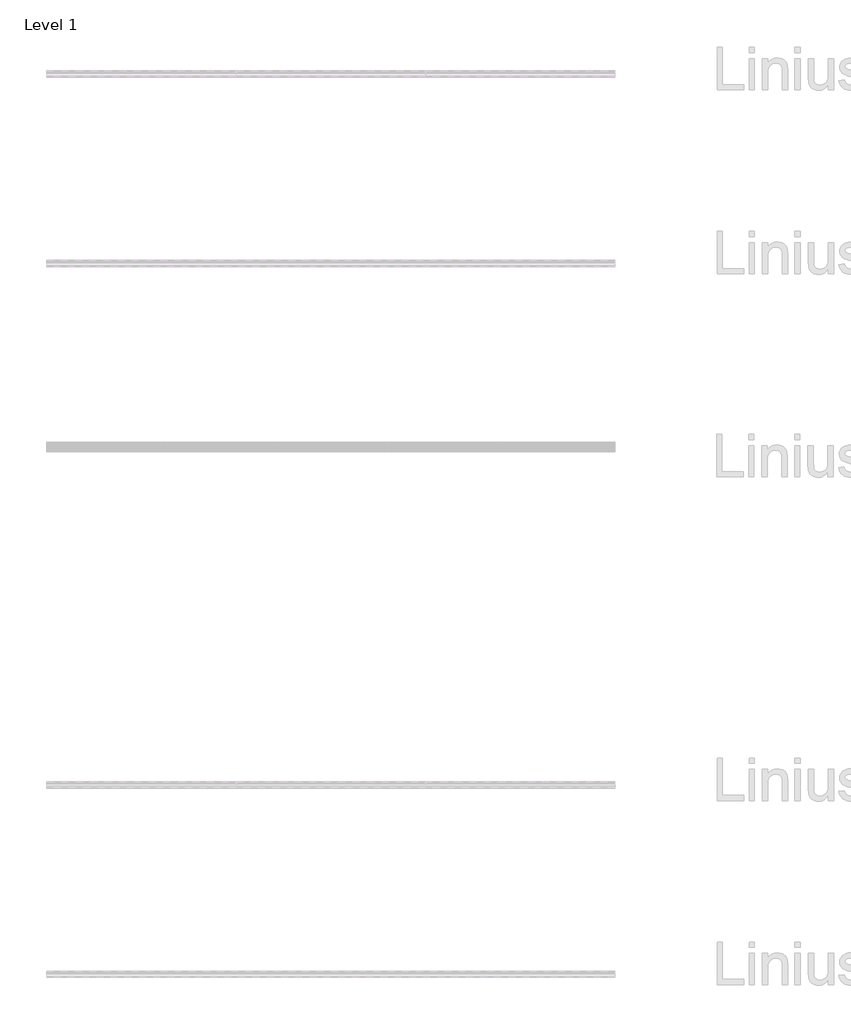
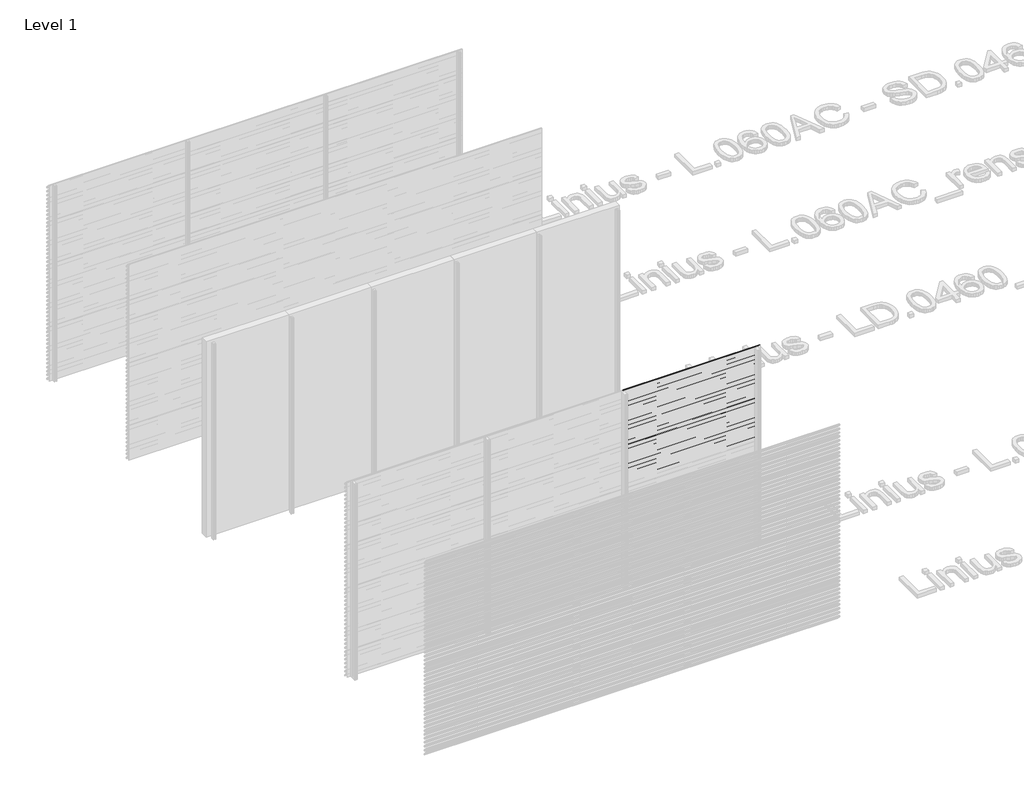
# One storey, part 117 of 153: 33 proxies.
"""IFC4 building model written with IfcOpenShell, lengths in millimetres."""

from ifc_helpers import new_model, si_unit, point, frame, frame_2d, origin, place, context, project, spatial, polyline, circle_curve, trimmed, segment, composite_curve, outline, extrude, element, save

model = new_model("IFC4")

# Units and contexts
model_context = context("Model", 3, world=origin())
ifc_project = project(units=[si_unit("LENGTHUNIT", "METRE", prefix="MILLI")], contexts=[model_context])

# Site, building, storey
site = spatial("IfcSite", under=ifc_project)
building = spatial("IfcBuilding", under=site)
storey = spatial("IfcBuildingStorey", under=building, Name="Level 1", Elevation=0.0)

# Proxies
placement = place(None, origin())
element("IfcBuildingElementProxy", 1, Name="Wall Sweeps", at=placement, inside=storey, context=model_context, shape_type="SweptSolid", body=[
    extrude(outline(composite_curve([segment(polyline([(58985.0540136, 540.0), (58999.874191, 538.7034025), (59049.0540136, 485.0102749), (59049.0540136, 473.6108187)]), True, "CONTINUOUS"), segment(trimmed(circle_curve(frame_2d((59045.7883652, 473.897153)), 3.2781774), [point((59049.0540136, 473.6108187))], [point((59046.4639442, 470.6893438))], False, "CARTESIAN"), True, "CONTINUOUS"), segment(polyline([(59046.4639442, 470.6893438), (59034.1895723, 471.6282758), (58985.0540136, 525.2730773), (58985.0540136, 540.0)]), True, "CONTINUOUS")], self_intersect=False), holes=[composite_curve([segment(polyline([(58999.1621773, 537.2599659), (58986.5540136, 538.3630372), (58986.5540136, 525.856213), (59034.8952036, 473.0786805), (59046.3312542, 472.2038762)]), True, "CONTINUOUS"), segment(trimmed(circle_curve(frame_2d((59045.7883652, 473.897153)), 1.7781774), [point((59046.3312542, 472.2038762))], [point((59047.5540136, 473.6864389))], True, "CARTESIAN"), True, "CONTINUOUS"), segment(polyline([(59047.5540136, 473.6864389), (59047.5540136, 484.4271392), (58999.1621773, 537.2599659)]), True, "CONTINUOUS")], self_intersect=False)]), frame((46966.6208098, 0.0, 0.0), z_axis=(1.0, 0.0, 0.0), x_axis=(0.0, 1.0, 0.0)), (0.0, 0.0, 1.0), 1999.9999998),
])
element("IfcBuildingElementProxy", 2, Name="Wall Sweeps", at=placement, inside=storey, context=model_context, shape_type="SweptSolid", body=[
    extrude(outline(composite_curve([segment(polyline([(58985.0540136, 480.0), (58999.874191, 478.7034025), (59049.0540136, 425.0102749), (59049.0540136, 413.6108187)]), True, "CONTINUOUS"), segment(trimmed(circle_curve(frame_2d((59045.7883652, 413.897153)), 3.2781774), [point((59049.0540136, 413.6108187))], [point((59046.4639442, 410.6893438))], False, "CARTESIAN"), True, "CONTINUOUS"), segment(polyline([(59046.4639442, 410.6893438), (59034.1895723, 411.6282758), (58985.0540136, 465.2730773), (58985.0540136, 480.0)]), True, "CONTINUOUS")], self_intersect=False), holes=[composite_curve([segment(polyline([(58999.1621773, 477.2599659), (58986.5540136, 478.3630372), (58986.5540136, 465.856213), (59034.8952036, 413.0786805), (59046.3312542, 412.2038762)]), True, "CONTINUOUS"), segment(trimmed(circle_curve(frame_2d((59045.7883652, 413.897153)), 1.7781774), [point((59046.3312542, 412.2038762))], [point((59047.5540136, 413.6864389))], True, "CARTESIAN"), True, "CONTINUOUS"), segment(polyline([(59047.5540136, 413.6864389), (59047.5540136, 424.4271392), (58999.1621773, 477.2599659)]), True, "CONTINUOUS")], self_intersect=False)]), frame((46966.6208098, 0.0, 0.0), z_axis=(1.0, 0.0, 0.0), x_axis=(0.0, 1.0, 0.0)), (0.0, 0.0, 1.0), 1999.9999998),
])
element("IfcBuildingElementProxy", 3, Name="Wall Sweeps", at=placement, inside=storey, context=model_context, shape_type="SweptSolid", body=[
    extrude(outline(composite_curve([segment(polyline([(58985.0540136, 420.0), (58999.874191, 418.7034025), (59049.0540136, 365.0102749), (59049.0540136, 353.6108187)]), True, "CONTINUOUS"), segment(trimmed(circle_curve(frame_2d((59045.7883652, 353.897153)), 3.2781774), [point((59049.0540136, 353.6108187))], [point((59046.4639442, 350.6893438))], False, "CARTESIAN"), True, "CONTINUOUS"), segment(polyline([(59046.4639442, 350.6893438), (59034.1895723, 351.6282758), (58985.0540136, 405.2730773), (58985.0540136, 420.0)]), True, "CONTINUOUS")], self_intersect=False), holes=[composite_curve([segment(polyline([(58999.1621773, 417.2599659), (58986.5540136, 418.3630372), (58986.5540136, 405.856213), (59034.8952036, 353.0786805), (59046.3312542, 352.2038762)]), True, "CONTINUOUS"), segment(trimmed(circle_curve(frame_2d((59045.7883652, 353.897153)), 1.7781774), [point((59046.3312542, 352.2038762))], [point((59047.5540136, 353.6864389))], True, "CARTESIAN"), True, "CONTINUOUS"), segment(polyline([(59047.5540136, 353.6864389), (59047.5540136, 364.4271392), (58999.1621773, 417.2599659)]), True, "CONTINUOUS")], self_intersect=False)]), frame((46966.6208098, 0.0, 0.0), z_axis=(1.0, 0.0, 0.0), x_axis=(0.0, 1.0, 0.0)), (0.0, 0.0, 1.0), 1999.9999998),
])
element("IfcBuildingElementProxy", 4, Name="Wall Sweeps", at=placement, inside=storey, context=model_context, shape_type="SweptSolid", body=[
    extrude(outline(composite_curve([segment(polyline([(58985.0540136, 360.0), (58999.874191, 358.7034025), (59049.0540136, 305.0102749), (59049.0540136, 293.6108187)]), True, "CONTINUOUS"), segment(trimmed(circle_curve(frame_2d((59045.7883652, 293.897153)), 3.2781774), [point((59049.0540136, 293.6108187))], [point((59046.4639442, 290.6893438))], False, "CARTESIAN"), True, "CONTINUOUS"), segment(polyline([(59046.4639442, 290.6893438), (59034.1895723, 291.6282758), (58985.0540136, 345.2730773), (58985.0540136, 360.0)]), True, "CONTINUOUS")], self_intersect=False), holes=[composite_curve([segment(polyline([(58999.1621773, 357.2599659), (58986.5540136, 358.3630372), (58986.5540136, 345.856213), (59034.8952036, 293.0786805), (59046.3312542, 292.2038762)]), True, "CONTINUOUS"), segment(trimmed(circle_curve(frame_2d((59045.7883652, 293.897153)), 1.7781774), [point((59046.3312542, 292.2038762))], [point((59047.5540136, 293.6864389))], True, "CARTESIAN"), True, "CONTINUOUS"), segment(polyline([(59047.5540136, 293.6864389), (59047.5540136, 304.4271392), (58999.1621773, 357.2599659)]), True, "CONTINUOUS")], self_intersect=False)]), frame((46966.6208098, 0.0, 0.0), z_axis=(1.0, 0.0, 0.0), x_axis=(0.0, 1.0, 0.0)), (0.0, 0.0, 1.0), 1999.9999998),
])
element("IfcBuildingElementProxy", 5, Name="Wall Sweeps", at=placement, inside=storey, context=model_context, shape_type="SweptSolid", body=[
    extrude(outline(composite_curve([segment(polyline([(58985.0540136, 300.0), (58999.874191, 298.7034025), (59049.0540136, 245.0102749), (59049.0540136, 233.6108187)]), True, "CONTINUOUS"), segment(trimmed(circle_curve(frame_2d((59045.7883652, 233.897153)), 3.2781774), [point((59049.0540136, 233.6108187))], [point((59046.4639442, 230.6893438))], False, "CARTESIAN"), True, "CONTINUOUS"), segment(polyline([(59046.4639442, 230.6893438), (59034.1895723, 231.6282758), (58985.0540136, 285.2730773), (58985.0540136, 300.0)]), True, "CONTINUOUS")], self_intersect=False), holes=[composite_curve([segment(polyline([(58999.1621773, 297.2599659), (58986.5540136, 298.3630372), (58986.5540136, 285.856213), (59034.8952036, 233.0786805), (59046.3312542, 232.2038762)]), True, "CONTINUOUS"), segment(trimmed(circle_curve(frame_2d((59045.7883652, 233.897153)), 1.7781774), [point((59046.3312542, 232.2038762))], [point((59047.5540136, 233.6864389))], True, "CARTESIAN"), True, "CONTINUOUS"), segment(polyline([(59047.5540136, 233.6864389), (59047.5540136, 244.4271392), (58999.1621773, 297.2599659)]), True, "CONTINUOUS")], self_intersect=False)]), frame((46966.6208098, 0.0, 0.0), z_axis=(1.0, 0.0, 0.0), x_axis=(0.0, 1.0, 0.0)), (0.0, 0.0, 1.0), 1999.9999998),
])
element("IfcBuildingElementProxy", 6, Name="Wall Sweeps", at=placement, inside=storey, context=model_context, shape_type="SweptSolid", body=[
    extrude(outline(composite_curve([segment(polyline([(58985.0540136, 240.0), (58999.874191, 238.7034025), (59049.0540136, 185.0102749), (59049.0540136, 173.6108187)]), True, "CONTINUOUS"), segment(trimmed(circle_curve(frame_2d((59045.7883652, 173.897153)), 3.2781774), [point((59049.0540136, 173.6108187))], [point((59046.4639442, 170.6893438))], False, "CARTESIAN"), True, "CONTINUOUS"), segment(polyline([(59046.4639442, 170.6893438), (59034.1895723, 171.6282758), (58985.0540136, 225.2730773), (58985.0540136, 240.0)]), True, "CONTINUOUS")], self_intersect=False), holes=[composite_curve([segment(polyline([(58999.1621773, 237.2599659), (58986.5540136, 238.3630372), (58986.5540136, 225.856213), (59034.8952036, 173.0786805), (59046.3312542, 172.2038762)]), True, "CONTINUOUS"), segment(trimmed(circle_curve(frame_2d((59045.7883652, 173.897153)), 1.7781774), [point((59046.3312542, 172.2038762))], [point((59047.5540136, 173.6864389))], True, "CARTESIAN"), True, "CONTINUOUS"), segment(polyline([(59047.5540136, 173.6864389), (59047.5540136, 184.4271392), (58999.1621773, 237.2599659)]), True, "CONTINUOUS")], self_intersect=False)]), frame((46966.6208098, 0.0, 0.0), z_axis=(1.0, 0.0, 0.0), x_axis=(0.0, 1.0, 0.0)), (0.0, 0.0, 1.0), 1999.9999998),
])
element("IfcBuildingElementProxy", 7, Name="Wall Sweeps", at=placement, inside=storey, context=model_context, shape_type="SweptSolid", body=[
    extrude(outline(composite_curve([segment(polyline([(58985.0540136, 180.0), (58999.874191, 178.7034025), (59049.0540136, 125.0102749), (59049.0540136, 113.6108187)]), True, "CONTINUOUS"), segment(trimmed(circle_curve(frame_2d((59045.7883652, 113.897153)), 3.2781774), [point((59049.0540136, 113.6108187))], [point((59046.4639442, 110.6893438))], False, "CARTESIAN"), True, "CONTINUOUS"), segment(polyline([(59046.4639442, 110.6893438), (59034.1895723, 111.6282758), (58985.0540136, 165.2730773), (58985.0540136, 180.0)]), True, "CONTINUOUS")], self_intersect=False), holes=[composite_curve([segment(polyline([(58999.1621773, 177.2599659), (58986.5540136, 178.3630372), (58986.5540136, 165.856213), (59034.8952036, 113.0786805), (59046.3312542, 112.2038762)]), True, "CONTINUOUS"), segment(trimmed(circle_curve(frame_2d((59045.7883652, 113.897153)), 1.7781774), [point((59046.3312542, 112.2038762))], [point((59047.5540136, 113.6864389))], True, "CARTESIAN"), True, "CONTINUOUS"), segment(polyline([(59047.5540136, 113.6864389), (59047.5540136, 124.4271392), (58999.1621773, 177.2599659)]), True, "CONTINUOUS")], self_intersect=False)]), frame((46966.6208098, 0.0, 0.0), z_axis=(1.0, 0.0, 0.0), x_axis=(0.0, 1.0, 0.0)), (0.0, 0.0, 1.0), 1999.9999998),
])
element("IfcBuildingElementProxy", 8, Name="Wall Sweeps", at=placement, inside=storey, context=model_context, shape_type="SweptSolid", body=[
    extrude(outline(composite_curve([segment(polyline([(58985.0540136, 120.0), (58999.874191, 118.7034025), (59049.0540136, 65.0102749), (59049.0540136, 53.6108187)]), True, "CONTINUOUS"), segment(trimmed(circle_curve(frame_2d((59045.7883652, 53.897153)), 3.2781774), [point((59049.0540136, 53.6108187))], [point((59046.4639442, 50.6893438))], False, "CARTESIAN"), True, "CONTINUOUS"), segment(polyline([(59046.4639442, 50.6893438), (59034.1895723, 51.6282758), (58985.0540136, 105.2730773), (58985.0540136, 120.0)]), True, "CONTINUOUS")], self_intersect=False), holes=[composite_curve([segment(polyline([(58999.1621773, 117.2599659), (58986.5540136, 118.3630372), (58986.5540136, 105.856213), (59034.8952036, 53.0786805), (59046.3312542, 52.2038762)]), True, "CONTINUOUS"), segment(trimmed(circle_curve(frame_2d((59045.7883652, 53.897153)), 1.7781774), [point((59046.3312542, 52.2038762))], [point((59047.5540136, 53.6864389))], True, "CARTESIAN"), True, "CONTINUOUS"), segment(polyline([(59047.5540136, 53.6864389), (59047.5540136, 64.4271392), (58999.1621773, 117.2599659)]), True, "CONTINUOUS")], self_intersect=False)]), frame((46966.6208098, 0.0, 0.0), z_axis=(1.0, 0.0, 0.0), x_axis=(0.0, 1.0, 0.0)), (0.0, 0.0, 1.0), 1999.9999998),
])
element("IfcBuildingElementProxy", 9, Name="Wall Sweeps", at=placement, inside=storey, context=model_context, shape_type="SweptSolid", body=[
    extrude(outline(composite_curve([segment(polyline([(58985.0540136, 60.0), (58999.874191, 58.7034025), (59049.0540136, 5.0102749), (59049.0540136, -6.3891813)]), True, "CONTINUOUS"), segment(trimmed(circle_curve(frame_2d((59045.7883652, -6.102847)), 3.2781774), [point((59049.0540136, -6.3891813))], [point((59046.4639442, -9.3106562))], False, "CARTESIAN"), True, "CONTINUOUS"), segment(polyline([(59046.4639442, -9.3106562), (59034.1895723, -8.3717242), (58985.0540136, 45.2730773), (58985.0540136, 60.0)]), True, "CONTINUOUS")], self_intersect=False), holes=[composite_curve([segment(polyline([(58999.1621773, 57.2599659), (58986.5540136, 58.3630372), (58986.5540136, 45.856213), (59034.8952036, -6.9213195), (59046.3312542, -7.7961238)]), True, "CONTINUOUS"), segment(trimmed(circle_curve(frame_2d((59045.7883652, -6.102847)), 1.7781774), [point((59046.3312542, -7.7961238))], [point((59047.5540136, -6.3135611))], True, "CARTESIAN"), True, "CONTINUOUS"), segment(polyline([(59047.5540136, -6.3135611), (59047.5540136, 4.4271392), (58999.1621773, 57.2599659)]), True, "CONTINUOUS")], self_intersect=False)]), frame((46966.6208098, 0.0, 0.0), z_axis=(1.0, 0.0, 0.0), x_axis=(0.0, 1.0, 0.0)), (0.0, 0.0, 1.0), 1999.9999998),
])
element("IfcBuildingElementProxy", 10, Name="Wall Sweeps", at=placement, inside=storey, context=model_context, shape_type="SweptSolid", body=[
    extrude(outline(composite_curve([segment(polyline([(51485.0540136, 3000.0), (51499.874191, 2998.7034025), (51549.0540136, 2945.0102749), (51549.0540136, 2933.6108187)]), True, "CONTINUOUS"), segment(trimmed(circle_curve(frame_2d((51545.7883652, 2933.897153)), 3.2781774), [point((51549.0540136, 2933.6108187))], [point((51546.4639442, 2930.6893438))], False, "CARTESIAN"), True, "CONTINUOUS"), segment(polyline([(51546.4639442, 2930.6893438), (51534.1895723, 2931.6282758), (51485.0540136, 2985.2730773), (51485.0540136, 3000.0)]), True, "CONTINUOUS")], self_intersect=False), holes=[composite_curve([segment(polyline([(51499.1621773, 2997.2599659), (51486.5540136, 2998.3630372), (51486.5540136, 2985.856213), (51534.8952036, 2933.0786805), (51546.3312542, 2932.2038762)]), True, "CONTINUOUS"), segment(trimmed(circle_curve(frame_2d((51545.7883652, 2933.897153)), 1.7781774), [point((51546.3312542, 2932.2038762))], [point((51547.5540136, 2933.6864389))], True, "CARTESIAN"), True, "CONTINUOUS"), segment(polyline([(51547.5540136, 2933.6864389), (51547.5540136, 2944.4271392), (51499.1621773, 2997.2599659)]), True, "CONTINUOUS")], self_intersect=False)]), frame((48966.6208096, 0.0, 0.0), z_axis=(1.0, 0.0, 0.0), x_axis=(0.0, 1.0, 0.0)), (0.0, 0.0, 1.0), 2000.0000001),
])
element("IfcBuildingElementProxy", 11, Name="Wall Sweeps", at=placement, inside=storey, context=model_context, shape_type="SweptSolid", body=[
    extrude(outline(composite_curve([segment(polyline([(51485.0540136, 2940.0), (51499.874191, 2938.7034025), (51549.0540136, 2885.0102749), (51549.0540136, 2873.6108187)]), True, "CONTINUOUS"), segment(trimmed(circle_curve(frame_2d((51545.7883652, 2873.897153)), 3.2781774), [point((51549.0540136, 2873.6108187))], [point((51546.4639442, 2870.6893438))], False, "CARTESIAN"), True, "CONTINUOUS"), segment(polyline([(51546.4639442, 2870.6893438), (51534.1895723, 2871.6282758), (51485.0540136, 2925.2730773), (51485.0540136, 2940.0)]), True, "CONTINUOUS")], self_intersect=False), holes=[composite_curve([segment(polyline([(51499.1621773, 2937.2599659), (51486.5540136, 2938.3630372), (51486.5540136, 2925.856213), (51534.8952036, 2873.0786805), (51546.3312542, 2872.2038762)]), True, "CONTINUOUS"), segment(trimmed(circle_curve(frame_2d((51545.7883652, 2873.897153)), 1.7781774), [point((51546.3312542, 2872.2038762))], [point((51547.5540136, 2873.6864389))], True, "CARTESIAN"), True, "CONTINUOUS"), segment(polyline([(51547.5540136, 2873.6864389), (51547.5540136, 2884.4271392), (51499.1621773, 2937.2599659)]), True, "CONTINUOUS")], self_intersect=False)]), frame((48966.6208096, 0.0, 0.0), z_axis=(1.0, 0.0, 0.0), x_axis=(0.0, 1.0, 0.0)), (0.0, 0.0, 1.0), 2000.0000001),
])
element("IfcBuildingElementProxy", 12, Name="Wall Sweeps", at=placement, inside=storey, context=model_context, shape_type="SweptSolid", body=[
    extrude(outline(composite_curve([segment(polyline([(51485.0540136, 2880.0), (51499.874191, 2878.7034025), (51549.0540136, 2825.0102749), (51549.0540136, 2813.6108187)]), True, "CONTINUOUS"), segment(trimmed(circle_curve(frame_2d((51545.7883652, 2813.897153)), 3.2781774), [point((51549.0540136, 2813.6108187))], [point((51546.4639442, 2810.6893438))], False, "CARTESIAN"), True, "CONTINUOUS"), segment(polyline([(51546.4639442, 2810.6893438), (51534.1895723, 2811.6282758), (51485.0540136, 2865.2730773), (51485.0540136, 2880.0)]), True, "CONTINUOUS")], self_intersect=False), holes=[composite_curve([segment(polyline([(51499.1621773, 2877.2599659), (51486.5540136, 2878.3630372), (51486.5540136, 2865.856213), (51534.8952036, 2813.0786805), (51546.3312542, 2812.2038762)]), True, "CONTINUOUS"), segment(trimmed(circle_curve(frame_2d((51545.7883652, 2813.897153)), 1.7781774), [point((51546.3312542, 2812.2038762))], [point((51547.5540136, 2813.6864389))], True, "CARTESIAN"), True, "CONTINUOUS"), segment(polyline([(51547.5540136, 2813.6864389), (51547.5540136, 2824.4271392), (51499.1621773, 2877.2599659)]), True, "CONTINUOUS")], self_intersect=False)]), frame((48966.6208096, 0.0, 0.0), z_axis=(1.0, 0.0, 0.0), x_axis=(0.0, 1.0, 0.0)), (0.0, 0.0, 1.0), 2000.0000001),
])
element("IfcBuildingElementProxy", 13, Name="Wall Sweeps", at=placement, inside=storey, context=model_context, shape_type="SweptSolid", body=[
    extrude(outline(composite_curve([segment(polyline([(51485.0540136, 2820.0), (51499.874191, 2818.7034025), (51549.0540136, 2765.0102749), (51549.0540136, 2753.6108187)]), True, "CONTINUOUS"), segment(trimmed(circle_curve(frame_2d((51545.7883652, 2753.897153)), 3.2781774), [point((51549.0540136, 2753.6108187))], [point((51546.4639442, 2750.6893438))], False, "CARTESIAN"), True, "CONTINUOUS"), segment(polyline([(51546.4639442, 2750.6893438), (51534.1895723, 2751.6282758), (51485.0540136, 2805.2730773), (51485.0540136, 2820.0)]), True, "CONTINUOUS")], self_intersect=False), holes=[composite_curve([segment(polyline([(51499.1621773, 2817.2599659), (51486.5540136, 2818.3630372), (51486.5540136, 2805.856213), (51534.8952036, 2753.0786805), (51546.3312542, 2752.2038762)]), True, "CONTINUOUS"), segment(trimmed(circle_curve(frame_2d((51545.7883652, 2753.897153)), 1.7781774), [point((51546.3312542, 2752.2038762))], [point((51547.5540136, 2753.6864389))], True, "CARTESIAN"), True, "CONTINUOUS"), segment(polyline([(51547.5540136, 2753.6864389), (51547.5540136, 2764.4271392), (51499.1621773, 2817.2599659)]), True, "CONTINUOUS")], self_intersect=False)]), frame((48966.6208096, 0.0, 0.0), z_axis=(1.0, 0.0, 0.0), x_axis=(0.0, 1.0, 0.0)), (0.0, 0.0, 1.0), 2000.0000001),
])
element("IfcBuildingElementProxy", 14, Name="Wall Sweeps", at=placement, inside=storey, context=model_context, shape_type="SweptSolid", body=[
    extrude(outline(composite_curve([segment(polyline([(51485.0540136, 2760.0), (51499.874191, 2758.7034025), (51549.0540136, 2705.0102749), (51549.0540136, 2693.6108187)]), True, "CONTINUOUS"), segment(trimmed(circle_curve(frame_2d((51545.7883652, 2693.897153)), 3.2781774), [point((51549.0540136, 2693.6108187))], [point((51546.4639442, 2690.6893438))], False, "CARTESIAN"), True, "CONTINUOUS"), segment(polyline([(51546.4639442, 2690.6893438), (51534.1895723, 2691.6282758), (51485.0540136, 2745.2730773), (51485.0540136, 2760.0)]), True, "CONTINUOUS")], self_intersect=False), holes=[composite_curve([segment(polyline([(51499.1621773, 2757.2599659), (51486.5540136, 2758.3630372), (51486.5540136, 2745.856213), (51534.8952036, 2693.0786805), (51546.3312542, 2692.2038762)]), True, "CONTINUOUS"), segment(trimmed(circle_curve(frame_2d((51545.7883652, 2693.897153)), 1.7781774), [point((51546.3312542, 2692.2038762))], [point((51547.5540136, 2693.6864389))], True, "CARTESIAN"), True, "CONTINUOUS"), segment(polyline([(51547.5540136, 2693.6864389), (51547.5540136, 2704.4271392), (51499.1621773, 2757.2599659)]), True, "CONTINUOUS")], self_intersect=False)]), frame((48966.6208096, 0.0, 0.0), z_axis=(1.0, 0.0, 0.0), x_axis=(0.0, 1.0, 0.0)), (0.0, 0.0, 1.0), 2000.0000001),
])
element("IfcBuildingElementProxy", 15, Name="Wall Sweeps", at=placement, inside=storey, context=model_context, shape_type="SweptSolid", body=[
    extrude(outline(composite_curve([segment(polyline([(51485.0540136, 2700.0), (51499.874191, 2698.7034025), (51549.0540136, 2645.0102749), (51549.0540136, 2633.6108187)]), True, "CONTINUOUS"), segment(trimmed(circle_curve(frame_2d((51545.7883652, 2633.897153)), 3.2781774), [point((51549.0540136, 2633.6108187))], [point((51546.4639442, 2630.6893438))], False, "CARTESIAN"), True, "CONTINUOUS"), segment(polyline([(51546.4639442, 2630.6893438), (51534.1895723, 2631.6282758), (51485.0540136, 2685.2730773), (51485.0540136, 2700.0)]), True, "CONTINUOUS")], self_intersect=False), holes=[composite_curve([segment(polyline([(51499.1621773, 2697.2599659), (51486.5540136, 2698.3630372), (51486.5540136, 2685.856213), (51534.8952036, 2633.0786805), (51546.3312542, 2632.2038762)]), True, "CONTINUOUS"), segment(trimmed(circle_curve(frame_2d((51545.7883652, 2633.897153)), 1.7781774), [point((51546.3312542, 2632.2038762))], [point((51547.5540136, 2633.6864389))], True, "CARTESIAN"), True, "CONTINUOUS"), segment(polyline([(51547.5540136, 2633.6864389), (51547.5540136, 2644.4271392), (51499.1621773, 2697.2599659)]), True, "CONTINUOUS")], self_intersect=False)]), frame((48966.6208096, 0.0, 0.0), z_axis=(1.0, 0.0, 0.0), x_axis=(0.0, 1.0, 0.0)), (0.0, 0.0, 1.0), 2000.0000001),
])
element("IfcBuildingElementProxy", 16, Name="Wall Sweeps", at=placement, inside=storey, context=model_context, shape_type="SweptSolid", body=[
    extrude(outline(composite_curve([segment(polyline([(51485.0540136, 2640.0), (51499.874191, 2638.7034025), (51549.0540136, 2585.0102749), (51549.0540136, 2573.6108187)]), True, "CONTINUOUS"), segment(trimmed(circle_curve(frame_2d((51545.7883652, 2573.897153)), 3.2781774), [point((51549.0540136, 2573.6108187))], [point((51546.4639442, 2570.6893438))], False, "CARTESIAN"), True, "CONTINUOUS"), segment(polyline([(51546.4639442, 2570.6893438), (51534.1895723, 2571.6282758), (51485.0540136, 2625.2730773), (51485.0540136, 2640.0)]), True, "CONTINUOUS")], self_intersect=False), holes=[composite_curve([segment(polyline([(51499.1621773, 2637.2599659), (51486.5540136, 2638.3630372), (51486.5540136, 2625.856213), (51534.8952036, 2573.0786805), (51546.3312542, 2572.2038762)]), True, "CONTINUOUS"), segment(trimmed(circle_curve(frame_2d((51545.7883652, 2573.897153)), 1.7781774), [point((51546.3312542, 2572.2038762))], [point((51547.5540136, 2573.6864389))], True, "CARTESIAN"), True, "CONTINUOUS"), segment(polyline([(51547.5540136, 2573.6864389), (51547.5540136, 2584.4271392), (51499.1621773, 2637.2599659)]), True, "CONTINUOUS")], self_intersect=False)]), frame((48966.6208096, 0.0, 0.0), z_axis=(1.0, 0.0, 0.0), x_axis=(0.0, 1.0, 0.0)), (0.0, 0.0, 1.0), 2000.0000001),
])
element("IfcBuildingElementProxy", 17, Name="Wall Sweeps", at=placement, inside=storey, context=model_context, shape_type="SweptSolid", body=[
    extrude(outline(composite_curve([segment(polyline([(51485.0540136, 2580.0), (51499.874191, 2578.7034025), (51549.0540136, 2525.0102749), (51549.0540136, 2513.6108187)]), True, "CONTINUOUS"), segment(trimmed(circle_curve(frame_2d((51545.7883652, 2513.897153)), 3.2781774), [point((51549.0540136, 2513.6108187))], [point((51546.4639442, 2510.6893438))], False, "CARTESIAN"), True, "CONTINUOUS"), segment(polyline([(51546.4639442, 2510.6893438), (51534.1895723, 2511.6282758), (51485.0540136, 2565.2730773), (51485.0540136, 2580.0)]), True, "CONTINUOUS")], self_intersect=False), holes=[composite_curve([segment(polyline([(51499.1621773, 2577.2599659), (51486.5540136, 2578.3630372), (51486.5540136, 2565.856213), (51534.8952036, 2513.0786805), (51546.3312542, 2512.2038762)]), True, "CONTINUOUS"), segment(trimmed(circle_curve(frame_2d((51545.7883652, 2513.897153)), 1.7781774), [point((51546.3312542, 2512.2038762))], [point((51547.5540136, 2513.6864389))], True, "CARTESIAN"), True, "CONTINUOUS"), segment(polyline([(51547.5540136, 2513.6864389), (51547.5540136, 2524.4271392), (51499.1621773, 2577.2599659)]), True, "CONTINUOUS")], self_intersect=False)]), frame((48966.6208096, 0.0, 0.0), z_axis=(1.0, 0.0, 0.0), x_axis=(0.0, 1.0, 0.0)), (0.0, 0.0, 1.0), 2000.0000001),
])
element("IfcBuildingElementProxy", 18, Name="Wall Sweeps", at=placement, inside=storey, context=model_context, shape_type="SweptSolid", body=[
    extrude(outline(composite_curve([segment(polyline([(51485.0540136, 2520.0), (51499.874191, 2518.7034025), (51549.0540136, 2465.0102749), (51549.0540136, 2453.6108187)]), True, "CONTINUOUS"), segment(trimmed(circle_curve(frame_2d((51545.7883652, 2453.897153)), 3.2781774), [point((51549.0540136, 2453.6108187))], [point((51546.4639442, 2450.6893438))], False, "CARTESIAN"), True, "CONTINUOUS"), segment(polyline([(51546.4639442, 2450.6893438), (51534.1895723, 2451.6282758), (51485.0540136, 2505.2730773), (51485.0540136, 2520.0)]), True, "CONTINUOUS")], self_intersect=False), holes=[composite_curve([segment(polyline([(51499.1621773, 2517.2599659), (51486.5540136, 2518.3630372), (51486.5540136, 2505.856213), (51534.8952036, 2453.0786805), (51546.3312542, 2452.2038762)]), True, "CONTINUOUS"), segment(trimmed(circle_curve(frame_2d((51545.7883652, 2453.897153)), 1.7781774), [point((51546.3312542, 2452.2038762))], [point((51547.5540136, 2453.6864389))], True, "CARTESIAN"), True, "CONTINUOUS"), segment(polyline([(51547.5540136, 2453.6864389), (51547.5540136, 2464.4271392), (51499.1621773, 2517.2599659)]), True, "CONTINUOUS")], self_intersect=False)]), frame((48966.6208096, 0.0, 0.0), z_axis=(1.0, 0.0, 0.0), x_axis=(0.0, 1.0, 0.0)), (0.0, 0.0, 1.0), 2000.0000001),
])
element("IfcBuildingElementProxy", 19, Name="Wall Sweeps", at=placement, inside=storey, context=model_context, shape_type="SweptSolid", body=[
    extrude(outline(composite_curve([segment(polyline([(51485.0540136, 2460.0), (51499.874191, 2458.7034025), (51549.0540136, 2405.0102749), (51549.0540136, 2393.6108187)]), True, "CONTINUOUS"), segment(trimmed(circle_curve(frame_2d((51545.7883652, 2393.897153)), 3.2781774), [point((51549.0540136, 2393.6108187))], [point((51546.4639442, 2390.6893438))], False, "CARTESIAN"), True, "CONTINUOUS"), segment(polyline([(51546.4639442, 2390.6893438), (51534.1895723, 2391.6282758), (51485.0540136, 2445.2730773), (51485.0540136, 2460.0)]), True, "CONTINUOUS")], self_intersect=False), holes=[composite_curve([segment(polyline([(51499.1621773, 2457.2599659), (51486.5540136, 2458.3630372), (51486.5540136, 2445.856213), (51534.8952036, 2393.0786805), (51546.3312542, 2392.2038762)]), True, "CONTINUOUS"), segment(trimmed(circle_curve(frame_2d((51545.7883652, 2393.897153)), 1.7781774), [point((51546.3312542, 2392.2038762))], [point((51547.5540136, 2393.6864389))], True, "CARTESIAN"), True, "CONTINUOUS"), segment(polyline([(51547.5540136, 2393.6864389), (51547.5540136, 2404.4271392), (51499.1621773, 2457.2599659)]), True, "CONTINUOUS")], self_intersect=False)]), frame((48966.6208096, 0.0, 0.0), z_axis=(1.0, 0.0, 0.0), x_axis=(0.0, 1.0, 0.0)), (0.0, 0.0, 1.0), 2000.0000001),
])
element("IfcBuildingElementProxy", 20, Name="Wall Sweeps", at=placement, inside=storey, context=model_context, shape_type="SweptSolid", body=[
    extrude(outline(composite_curve([segment(polyline([(51485.0540136, 2400.0), (51499.874191, 2398.7034025), (51549.0540136, 2345.0102749), (51549.0540136, 2333.6108187)]), True, "CONTINUOUS"), segment(trimmed(circle_curve(frame_2d((51545.7883652, 2333.897153)), 3.2781774), [point((51549.0540136, 2333.6108187))], [point((51546.4639442, 2330.6893438))], False, "CARTESIAN"), True, "CONTINUOUS"), segment(polyline([(51546.4639442, 2330.6893438), (51534.1895723, 2331.6282758), (51485.0540136, 2385.2730773), (51485.0540136, 2400.0)]), True, "CONTINUOUS")], self_intersect=False), holes=[composite_curve([segment(polyline([(51499.1621773, 2397.2599659), (51486.5540136, 2398.3630372), (51486.5540136, 2385.856213), (51534.8952036, 2333.0786805), (51546.3312542, 2332.2038762)]), True, "CONTINUOUS"), segment(trimmed(circle_curve(frame_2d((51545.7883652, 2333.897153)), 1.7781774), [point((51546.3312542, 2332.2038762))], [point((51547.5540136, 2333.6864389))], True, "CARTESIAN"), True, "CONTINUOUS"), segment(polyline([(51547.5540136, 2333.6864389), (51547.5540136, 2344.4271392), (51499.1621773, 2397.2599659)]), True, "CONTINUOUS")], self_intersect=False)]), frame((48966.6208096, 0.0, 0.0), z_axis=(1.0, 0.0, 0.0), x_axis=(0.0, 1.0, 0.0)), (0.0, 0.0, 1.0), 2000.0000001),
])
element("IfcBuildingElementProxy", 21, Name="Wall Sweeps", at=placement, inside=storey, context=model_context, shape_type="SweptSolid", body=[
    extrude(outline(composite_curve([segment(polyline([(51485.0540136, 2340.0), (51499.874191, 2338.7034025), (51549.0540136, 2285.0102749), (51549.0540136, 2273.6108187)]), True, "CONTINUOUS"), segment(trimmed(circle_curve(frame_2d((51545.7883652, 2273.897153)), 3.2781774), [point((51549.0540136, 2273.6108187))], [point((51546.4639442, 2270.6893438))], False, "CARTESIAN"), True, "CONTINUOUS"), segment(polyline([(51546.4639442, 2270.6893438), (51534.1895723, 2271.6282758), (51485.0540136, 2325.2730773), (51485.0540136, 2340.0)]), True, "CONTINUOUS")], self_intersect=False), holes=[composite_curve([segment(polyline([(51499.1621773, 2337.2599659), (51486.5540136, 2338.3630372), (51486.5540136, 2325.856213), (51534.8952036, 2273.0786805), (51546.3312542, 2272.2038762)]), True, "CONTINUOUS"), segment(trimmed(circle_curve(frame_2d((51545.7883652, 2273.897153)), 1.7781774), [point((51546.3312542, 2272.2038762))], [point((51547.5540136, 2273.6864389))], True, "CARTESIAN"), True, "CONTINUOUS"), segment(polyline([(51547.5540136, 2273.6864389), (51547.5540136, 2284.4271392), (51499.1621773, 2337.2599659)]), True, "CONTINUOUS")], self_intersect=False)]), frame((48966.6208096, 0.0, 0.0), z_axis=(1.0, 0.0, 0.0), x_axis=(0.0, 1.0, 0.0)), (0.0, 0.0, 1.0), 2000.0000001),
])
element("IfcBuildingElementProxy", 22, Name="Wall Sweeps", at=placement, inside=storey, context=model_context, shape_type="SweptSolid", body=[
    extrude(outline(composite_curve([segment(polyline([(51485.0540136, 2280.0), (51499.874191, 2278.7034025), (51549.0540136, 2225.0102749), (51549.0540136, 2213.6108187)]), True, "CONTINUOUS"), segment(trimmed(circle_curve(frame_2d((51545.7883652, 2213.897153)), 3.2781774), [point((51549.0540136, 2213.6108187))], [point((51546.4639442, 2210.6893438))], False, "CARTESIAN"), True, "CONTINUOUS"), segment(polyline([(51546.4639442, 2210.6893438), (51534.1895723, 2211.6282758), (51485.0540136, 2265.2730773), (51485.0540136, 2280.0)]), True, "CONTINUOUS")], self_intersect=False), holes=[composite_curve([segment(polyline([(51499.1621773, 2277.2599659), (51486.5540136, 2278.3630372), (51486.5540136, 2265.856213), (51534.8952036, 2213.0786805), (51546.3312542, 2212.2038762)]), True, "CONTINUOUS"), segment(trimmed(circle_curve(frame_2d((51545.7883652, 2213.897153)), 1.7781774), [point((51546.3312542, 2212.2038762))], [point((51547.5540136, 2213.6864389))], True, "CARTESIAN"), True, "CONTINUOUS"), segment(polyline([(51547.5540136, 2213.6864389), (51547.5540136, 2224.4271392), (51499.1621773, 2277.2599659)]), True, "CONTINUOUS")], self_intersect=False)]), frame((48966.6208096, 0.0, 0.0), z_axis=(1.0, 0.0, 0.0), x_axis=(0.0, 1.0, 0.0)), (0.0, 0.0, 1.0), 2000.0000001),
])
element("IfcBuildingElementProxy", 23, Name="Wall Sweeps", at=placement, inside=storey, context=model_context, shape_type="SweptSolid", body=[
    extrude(outline(composite_curve([segment(polyline([(51485.0540136, 2220.0), (51499.874191, 2218.7034025), (51549.0540136, 2165.0102749), (51549.0540136, 2153.6108187)]), True, "CONTINUOUS"), segment(trimmed(circle_curve(frame_2d((51545.7883652, 2153.897153)), 3.2781774), [point((51549.0540136, 2153.6108187))], [point((51546.4639442, 2150.6893438))], False, "CARTESIAN"), True, "CONTINUOUS"), segment(polyline([(51546.4639442, 2150.6893438), (51534.1895723, 2151.6282758), (51485.0540136, 2205.2730773), (51485.0540136, 2220.0)]), True, "CONTINUOUS")], self_intersect=False), holes=[composite_curve([segment(polyline([(51499.1621773, 2217.2599659), (51486.5540136, 2218.3630372), (51486.5540136, 2205.856213), (51534.8952036, 2153.0786805), (51546.3312542, 2152.2038762)]), True, "CONTINUOUS"), segment(trimmed(circle_curve(frame_2d((51545.7883652, 2153.897153)), 1.7781774), [point((51546.3312542, 2152.2038762))], [point((51547.5540136, 2153.6864389))], True, "CARTESIAN"), True, "CONTINUOUS"), segment(polyline([(51547.5540136, 2153.6864389), (51547.5540136, 2164.4271392), (51499.1621773, 2217.2599659)]), True, "CONTINUOUS")], self_intersect=False)]), frame((48966.6208096, 0.0, 0.0), z_axis=(1.0, 0.0, 0.0), x_axis=(0.0, 1.0, 0.0)), (0.0, 0.0, 1.0), 2000.0000001),
])
element("IfcBuildingElementProxy", 24, Name="Wall Sweeps", at=placement, inside=storey, context=model_context, shape_type="SweptSolid", body=[
    extrude(outline(composite_curve([segment(polyline([(51485.0540136, 2160.0), (51499.874191, 2158.7034025), (51549.0540136, 2105.0102749), (51549.0540136, 2093.6108187)]), True, "CONTINUOUS"), segment(trimmed(circle_curve(frame_2d((51545.7883652, 2093.897153)), 3.2781774), [point((51549.0540136, 2093.6108187))], [point((51546.4639442, 2090.6893438))], False, "CARTESIAN"), True, "CONTINUOUS"), segment(polyline([(51546.4639442, 2090.6893438), (51534.1895723, 2091.6282758), (51485.0540136, 2145.2730773), (51485.0540136, 2160.0)]), True, "CONTINUOUS")], self_intersect=False), holes=[composite_curve([segment(polyline([(51499.1621773, 2157.2599659), (51486.5540136, 2158.3630372), (51486.5540136, 2145.856213), (51534.8952036, 2093.0786805), (51546.3312542, 2092.2038762)]), True, "CONTINUOUS"), segment(trimmed(circle_curve(frame_2d((51545.7883652, 2093.897153)), 1.7781774), [point((51546.3312542, 2092.2038762))], [point((51547.5540136, 2093.6864389))], True, "CARTESIAN"), True, "CONTINUOUS"), segment(polyline([(51547.5540136, 2093.6864389), (51547.5540136, 2104.4271392), (51499.1621773, 2157.2599659)]), True, "CONTINUOUS")], self_intersect=False)]), frame((48966.6208096, 0.0, 0.0), z_axis=(1.0, 0.0, 0.0), x_axis=(0.0, 1.0, 0.0)), (0.0, 0.0, 1.0), 2000.0000001),
])
element("IfcBuildingElementProxy", 25, Name="Wall Sweeps", at=placement, inside=storey, context=model_context, shape_type="SweptSolid", body=[
    extrude(outline(composite_curve([segment(polyline([(51485.0540136, 2100.0), (51499.874191, 2098.7034025), (51549.0540136, 2045.0102749), (51549.0540136, 2033.6108187)]), True, "CONTINUOUS"), segment(trimmed(circle_curve(frame_2d((51545.7883652, 2033.897153)), 3.2781774), [point((51549.0540136, 2033.6108187))], [point((51546.4639442, 2030.6893438))], False, "CARTESIAN"), True, "CONTINUOUS"), segment(polyline([(51546.4639442, 2030.6893438), (51534.1895723, 2031.6282758), (51485.0540136, 2085.2730773), (51485.0540136, 2100.0)]), True, "CONTINUOUS")], self_intersect=False), holes=[composite_curve([segment(polyline([(51499.1621773, 2097.2599659), (51486.5540136, 2098.3630372), (51486.5540136, 2085.856213), (51534.8952036, 2033.0786805), (51546.3312542, 2032.2038762)]), True, "CONTINUOUS"), segment(trimmed(circle_curve(frame_2d((51545.7883652, 2033.897153)), 1.7781774), [point((51546.3312542, 2032.2038762))], [point((51547.5540136, 2033.6864389))], True, "CARTESIAN"), True, "CONTINUOUS"), segment(polyline([(51547.5540136, 2033.6864389), (51547.5540136, 2044.4271392), (51499.1621773, 2097.2599659)]), True, "CONTINUOUS")], self_intersect=False)]), frame((48966.6208096, 0.0, 0.0), z_axis=(1.0, 0.0, 0.0), x_axis=(0.0, 1.0, 0.0)), (0.0, 0.0, 1.0), 2000.0000001),
])
element("IfcBuildingElementProxy", 26, Name="Wall Sweeps", at=placement, inside=storey, context=model_context, shape_type="SweptSolid", body=[
    extrude(outline(composite_curve([segment(polyline([(51485.0540136, 2040.0), (51499.874191, 2038.7034025), (51549.0540136, 1985.0102749), (51549.0540136, 1973.6108187)]), True, "CONTINUOUS"), segment(trimmed(circle_curve(frame_2d((51545.7883652, 1973.897153)), 3.2781774), [point((51549.0540136, 1973.6108187))], [point((51546.4639442, 1970.6893438))], False, "CARTESIAN"), True, "CONTINUOUS"), segment(polyline([(51546.4639442, 1970.6893438), (51534.1895723, 1971.6282758), (51485.0540136, 2025.2730773), (51485.0540136, 2040.0)]), True, "CONTINUOUS")], self_intersect=False), holes=[composite_curve([segment(polyline([(51499.1621773, 2037.2599659), (51486.5540136, 2038.3630372), (51486.5540136, 2025.856213), (51534.8952036, 1973.0786805), (51546.3312542, 1972.2038762)]), True, "CONTINUOUS"), segment(trimmed(circle_curve(frame_2d((51545.7883652, 1973.897153)), 1.7781774), [point((51546.3312542, 1972.2038762))], [point((51547.5540136, 1973.6864389))], True, "CARTESIAN"), True, "CONTINUOUS"), segment(polyline([(51547.5540136, 1973.6864389), (51547.5540136, 1984.4271392), (51499.1621773, 2037.2599659)]), True, "CONTINUOUS")], self_intersect=False)]), frame((48966.6208096, 0.0, 0.0), z_axis=(1.0, 0.0, 0.0), x_axis=(0.0, 1.0, 0.0)), (0.0, 0.0, 1.0), 2000.0000001),
])
element("IfcBuildingElementProxy", 27, Name="Wall Sweeps", at=placement, inside=storey, context=model_context, shape_type="SweptSolid", body=[
    extrude(outline(composite_curve([segment(polyline([(51485.0540136, 1980.0), (51499.874191, 1978.7034025), (51549.0540136, 1925.0102749), (51549.0540136, 1913.6108187)]), True, "CONTINUOUS"), segment(trimmed(circle_curve(frame_2d((51545.7883652, 1913.897153)), 3.2781774), [point((51549.0540136, 1913.6108187))], [point((51546.4639442, 1910.6893438))], False, "CARTESIAN"), True, "CONTINUOUS"), segment(polyline([(51546.4639442, 1910.6893438), (51534.1895723, 1911.6282758), (51485.0540136, 1965.2730773), (51485.0540136, 1980.0)]), True, "CONTINUOUS")], self_intersect=False), holes=[composite_curve([segment(polyline([(51499.1621773, 1977.2599659), (51486.5540136, 1978.3630372), (51486.5540136, 1965.856213), (51534.8952036, 1913.0786805), (51546.3312542, 1912.2038762)]), True, "CONTINUOUS"), segment(trimmed(circle_curve(frame_2d((51545.7883652, 1913.897153)), 1.7781774), [point((51546.3312542, 1912.2038762))], [point((51547.5540136, 1913.6864389))], True, "CARTESIAN"), True, "CONTINUOUS"), segment(polyline([(51547.5540136, 1913.6864389), (51547.5540136, 1924.4271392), (51499.1621773, 1977.2599659)]), True, "CONTINUOUS")], self_intersect=False)]), frame((48966.6208096, 0.0, 0.0), z_axis=(1.0, 0.0, 0.0), x_axis=(0.0, 1.0, 0.0)), (0.0, 0.0, 1.0), 2000.0000001),
])
element("IfcBuildingElementProxy", 28, Name="Wall Sweeps", at=placement, inside=storey, context=model_context, shape_type="SweptSolid", body=[
    extrude(outline(composite_curve([segment(polyline([(51485.0540136, 1920.0), (51499.874191, 1918.7034025), (51549.0540136, 1865.0102749), (51549.0540136, 1853.6108187)]), True, "CONTINUOUS"), segment(trimmed(circle_curve(frame_2d((51545.7883652, 1853.897153)), 3.2781774), [point((51549.0540136, 1853.6108187))], [point((51546.4639442, 1850.6893438))], False, "CARTESIAN"), True, "CONTINUOUS"), segment(polyline([(51546.4639442, 1850.6893438), (51534.1895723, 1851.6282758), (51485.0540136, 1905.2730773), (51485.0540136, 1920.0)]), True, "CONTINUOUS")], self_intersect=False), holes=[composite_curve([segment(polyline([(51499.1621773, 1917.2599659), (51486.5540136, 1918.3630372), (51486.5540136, 1905.856213), (51534.8952036, 1853.0786805), (51546.3312542, 1852.2038762)]), True, "CONTINUOUS"), segment(trimmed(circle_curve(frame_2d((51545.7883652, 1853.897153)), 1.7781774), [point((51546.3312542, 1852.2038762))], [point((51547.5540136, 1853.6864389))], True, "CARTESIAN"), True, "CONTINUOUS"), segment(polyline([(51547.5540136, 1853.6864389), (51547.5540136, 1864.4271392), (51499.1621773, 1917.2599659)]), True, "CONTINUOUS")], self_intersect=False)]), frame((48966.6208096, 0.0, 0.0), z_axis=(1.0, 0.0, 0.0), x_axis=(0.0, 1.0, 0.0)), (0.0, 0.0, 1.0), 2000.0000001),
])
element("IfcBuildingElementProxy", 29, Name="Wall Sweeps", at=placement, inside=storey, context=model_context, shape_type="SweptSolid", body=[
    extrude(outline(composite_curve([segment(polyline([(51485.0540136, 1860.0), (51499.874191, 1858.7034025), (51549.0540136, 1805.0102749), (51549.0540136, 1793.6108187)]), True, "CONTINUOUS"), segment(trimmed(circle_curve(frame_2d((51545.7883652, 1793.897153)), 3.2781774), [point((51549.0540136, 1793.6108187))], [point((51546.4639442, 1790.6893438))], False, "CARTESIAN"), True, "CONTINUOUS"), segment(polyline([(51546.4639442, 1790.6893438), (51534.1895723, 1791.6282758), (51485.0540136, 1845.2730773), (51485.0540136, 1860.0)]), True, "CONTINUOUS")], self_intersect=False), holes=[composite_curve([segment(polyline([(51499.1621773, 1857.2599659), (51486.5540136, 1858.3630372), (51486.5540136, 1845.856213), (51534.8952036, 1793.0786805), (51546.3312542, 1792.2038762)]), True, "CONTINUOUS"), segment(trimmed(circle_curve(frame_2d((51545.7883652, 1793.897153)), 1.7781774), [point((51546.3312542, 1792.2038762))], [point((51547.5540136, 1793.6864389))], True, "CARTESIAN"), True, "CONTINUOUS"), segment(polyline([(51547.5540136, 1793.6864389), (51547.5540136, 1804.4271392), (51499.1621773, 1857.2599659)]), True, "CONTINUOUS")], self_intersect=False)]), frame((48966.6208096, 0.0, 0.0), z_axis=(1.0, 0.0, 0.0), x_axis=(0.0, 1.0, 0.0)), (0.0, 0.0, 1.0), 2000.0000001),
])
element("IfcBuildingElementProxy", 30, Name="Wall Sweeps", at=placement, inside=storey, context=model_context, shape_type="SweptSolid", body=[
    extrude(outline(composite_curve([segment(polyline([(51485.0540136, 1800.0), (51499.874191, 1798.7034025), (51549.0540136, 1745.0102749), (51549.0540136, 1733.6108187)]), True, "CONTINUOUS"), segment(trimmed(circle_curve(frame_2d((51545.7883652, 1733.897153)), 3.2781774), [point((51549.0540136, 1733.6108187))], [point((51546.4639442, 1730.6893438))], False, "CARTESIAN"), True, "CONTINUOUS"), segment(polyline([(51546.4639442, 1730.6893438), (51534.1895723, 1731.6282758), (51485.0540136, 1785.2730773), (51485.0540136, 1800.0)]), True, "CONTINUOUS")], self_intersect=False), holes=[composite_curve([segment(polyline([(51499.1621773, 1797.2599659), (51486.5540136, 1798.3630372), (51486.5540136, 1785.856213), (51534.8952036, 1733.0786805), (51546.3312542, 1732.2038762)]), True, "CONTINUOUS"), segment(trimmed(circle_curve(frame_2d((51545.7883652, 1733.897153)), 1.7781774), [point((51546.3312542, 1732.2038762))], [point((51547.5540136, 1733.6864389))], True, "CARTESIAN"), True, "CONTINUOUS"), segment(polyline([(51547.5540136, 1733.6864389), (51547.5540136, 1744.4271392), (51499.1621773, 1797.2599659)]), True, "CONTINUOUS")], self_intersect=False)]), frame((48966.6208096, 0.0, 0.0), z_axis=(1.0, 0.0, 0.0), x_axis=(0.0, 1.0, 0.0)), (0.0, 0.0, 1.0), 2000.0000001),
])
element("IfcBuildingElementProxy", 31, Name="Wall Sweeps", at=placement, inside=storey, context=model_context, shape_type="SweptSolid", body=[
    extrude(outline(composite_curve([segment(polyline([(51485.0540136, 1740.0), (51499.874191, 1738.7034025), (51549.0540136, 1685.0102749), (51549.0540136, 1673.6108187)]), True, "CONTINUOUS"), segment(trimmed(circle_curve(frame_2d((51545.7883652, 1673.897153)), 3.2781774), [point((51549.0540136, 1673.6108187))], [point((51546.4639442, 1670.6893438))], False, "CARTESIAN"), True, "CONTINUOUS"), segment(polyline([(51546.4639442, 1670.6893438), (51534.1895723, 1671.6282758), (51485.0540136, 1725.2730773), (51485.0540136, 1740.0)]), True, "CONTINUOUS")], self_intersect=False), holes=[composite_curve([segment(polyline([(51499.1621773, 1737.2599659), (51486.5540136, 1738.3630372), (51486.5540136, 1725.856213), (51534.8952036, 1673.0786805), (51546.3312542, 1672.2038762)]), True, "CONTINUOUS"), segment(trimmed(circle_curve(frame_2d((51545.7883652, 1673.897153)), 1.7781774), [point((51546.3312542, 1672.2038762))], [point((51547.5540136, 1673.6864389))], True, "CARTESIAN"), True, "CONTINUOUS"), segment(polyline([(51547.5540136, 1673.6864389), (51547.5540136, 1684.4271392), (51499.1621773, 1737.2599659)]), True, "CONTINUOUS")], self_intersect=False)]), frame((48966.6208096, 0.0, 0.0), z_axis=(1.0, 0.0, 0.0), x_axis=(0.0, 1.0, 0.0)), (0.0, 0.0, 1.0), 2000.0000001),
])
element("IfcBuildingElementProxy", 32, Name="Wall Sweeps", at=placement, inside=storey, context=model_context, shape_type="SweptSolid", body=[
    extrude(outline(composite_curve([segment(polyline([(51485.0540136, 1680.0), (51499.874191, 1678.7034025), (51549.0540136, 1625.0102749), (51549.0540136, 1613.6108187)]), True, "CONTINUOUS"), segment(trimmed(circle_curve(frame_2d((51545.7883652, 1613.897153)), 3.2781774), [point((51549.0540136, 1613.6108187))], [point((51546.4639442, 1610.6893438))], False, "CARTESIAN"), True, "CONTINUOUS"), segment(polyline([(51546.4639442, 1610.6893438), (51534.1895723, 1611.6282758), (51485.0540136, 1665.2730773), (51485.0540136, 1680.0)]), True, "CONTINUOUS")], self_intersect=False), holes=[composite_curve([segment(polyline([(51499.1621773, 1677.2599659), (51486.5540136, 1678.3630372), (51486.5540136, 1665.856213), (51534.8952036, 1613.0786805), (51546.3312542, 1612.2038762)]), True, "CONTINUOUS"), segment(trimmed(circle_curve(frame_2d((51545.7883652, 1613.897153)), 1.7781774), [point((51546.3312542, 1612.2038762))], [point((51547.5540136, 1613.6864389))], True, "CARTESIAN"), True, "CONTINUOUS"), segment(polyline([(51547.5540136, 1613.6864389), (51547.5540136, 1624.4271392), (51499.1621773, 1677.2599659)]), True, "CONTINUOUS")], self_intersect=False)]), frame((48966.6208096, 0.0, 0.0), z_axis=(1.0, 0.0, 0.0), x_axis=(0.0, 1.0, 0.0)), (0.0, 0.0, 1.0), 2000.0000001),
])
element("IfcBuildingElementProxy", 33, Name="Wall Sweeps", at=placement, inside=storey, context=model_context, shape_type="SweptSolid", body=[
    extrude(outline(composite_curve([segment(polyline([(51485.0540136, 1620.0), (51499.874191, 1618.7034025), (51549.0540136, 1565.0102749), (51549.0540136, 1553.6108187)]), True, "CONTINUOUS"), segment(trimmed(circle_curve(frame_2d((51545.7883652, 1553.897153)), 3.2781774), [point((51549.0540136, 1553.6108187))], [point((51546.4639442, 1550.6893438))], False, "CARTESIAN"), True, "CONTINUOUS"), segment(polyline([(51546.4639442, 1550.6893438), (51534.1895723, 1551.6282758), (51485.0540136, 1605.2730773), (51485.0540136, 1620.0)]), True, "CONTINUOUS")], self_intersect=False), holes=[composite_curve([segment(polyline([(51499.1621773, 1617.2599659), (51486.5540136, 1618.3630372), (51486.5540136, 1605.856213), (51534.8952036, 1553.0786805), (51546.3312542, 1552.2038762)]), True, "CONTINUOUS"), segment(trimmed(circle_curve(frame_2d((51545.7883652, 1553.897153)), 1.7781774), [point((51546.3312542, 1552.2038762))], [point((51547.5540136, 1553.6864389))], True, "CARTESIAN"), True, "CONTINUOUS"), segment(polyline([(51547.5540136, 1553.6864389), (51547.5540136, 1564.4271392), (51499.1621773, 1617.2599659)]), True, "CONTINUOUS")], self_intersect=False)]), frame((48966.6208096, 0.0, 0.0), z_axis=(1.0, 0.0, 0.0), x_axis=(0.0, 1.0, 0.0)), (0.0, 0.0, 1.0), 2000.0000001),
])

save(model, "model.ifc")
